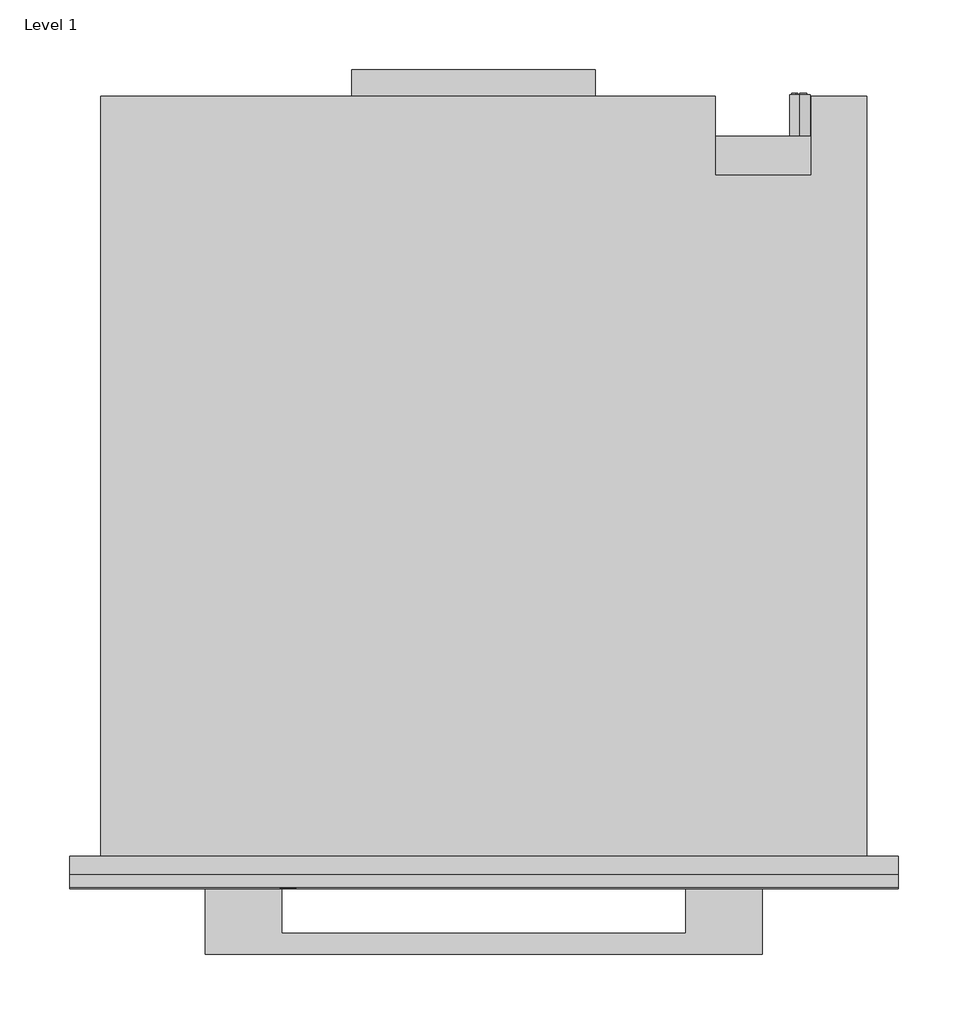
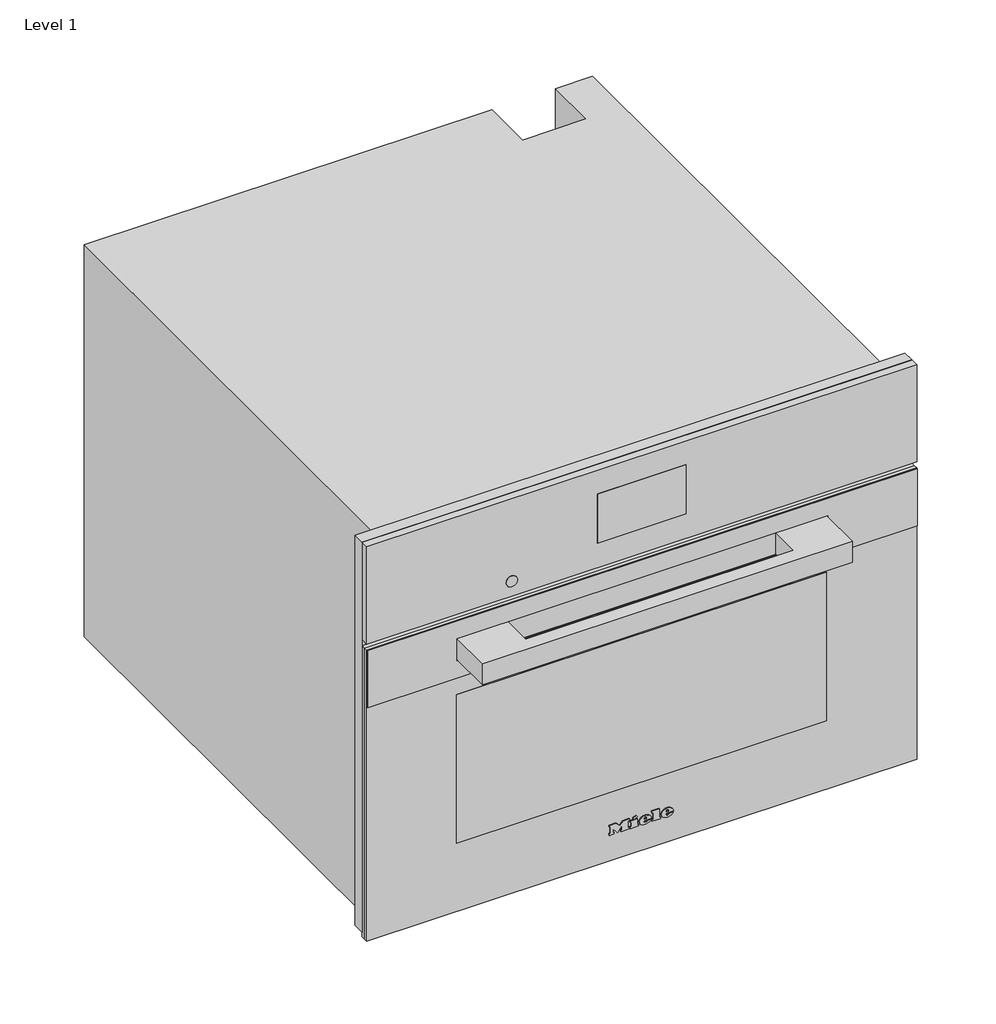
# One storey: 1 proxy.
"""IFC4 building model written with IfcOpenShell, lengths in millimetres."""

import ifcopenshell
import ifcopenshell.guid

model = None  # the IFC model being written
_history = None  # IfcOwnerHistory: only IFC2X3 demands one
_inside = {}  # id of a spatial element -> (the spatial element, [elements in it])
_under = {}  # id of a project, library or spatial element -> (it, [spatial elements below it])
_declared = {}  # id of a project -> (the project, [libraries it declares])
_typed = {}  # id of a type object -> (the type object, [elements of that type])
_made_of = {}  # id of a material, layer set ... -> (it, [elements and type objects made of it])


def new_model(schema):
    """Start an empty IFC model of exactly this schema.

    Asked for "IFC4X3", IfcOpenShell would pick the latest addendum, in which some entities
    have other attributes; the version numbers below select the first issue.
    IFC2X3 requires an IfcOwnerHistory on every rooted entity: one is made here for all.
    """
    global model, _history
    if schema == "IFC4X3":
        model = ifcopenshell.file(schema_version=(4, 3, 0, 0))
    else:
        model = ifcopenshell.file(schema=schema)
    _inside.clear()
    _under.clear()
    _declared.clear()
    _typed.clear()
    _made_of.clear()
    _history = None
    if model.schema == "IFC2X3":
        org = make("IfcOrganization", Name="unknown")
        user = make(
            "IfcPersonAndOrganization",
            ThePerson=make("IfcPerson", FamilyName="unknown"),
            TheOrganization=org,
        )
        app = make(
            "IfcApplication",
            ApplicationDeveloper=org,
            Version="unknown",
            ApplicationFullName="unknown",
            ApplicationIdentifier="unknown",
        )
        _history = make(
            "IfcOwnerHistory",
            OwningUser=user,
            OwningApplication=app,
            ChangeAction="ADDED",
            CreationDate=0,
        )
    return model


def make(cls, **values):
    """One entity of the class cls with the attributes given. An attribute that is None is left unset."""
    return model.create_entity(
        cls, **{name: value for name, value in values.items() if value is not None}
    )


def rooted(cls, **values):
    """An entity with a GlobalId (a new one), such as an element, a storey or a relation."""
    return make(cls, GlobalId=ifcopenshell.guid.new(), OwnerHistory=_history, **values)


def si_unit(unit_type, name, prefix=None):
    """IfcSIUnit, for example si_unit("LENGTHUNIT", "METRE", prefix="MILLI")."""
    return make("IfcSIUnit", UnitType=unit_type, Prefix=prefix, Name=name)


def assignment(units):
    """IfcUnitAssignment: the units of a project."""
    return None if units is None else make("IfcUnitAssignment", Units=units)


def point(xyz):
    """IfcCartesianPoint."""
    return None if xyz is None else make("IfcCartesianPoint", Coordinates=xyz)


def direction(xyz):
    """IfcDirection."""
    return None if xyz is None else make("IfcDirection", DirectionRatios=xyz)


def frame(location, z_axis=None, x_axis=None):
    """IfcAxis2Placement3D, a coordinate frame: its origin and axes. An axis left out is left unset."""
    return make(
        "IfcAxis2Placement3D",
        Location=point(location),
        Axis=direction(z_axis),
        RefDirection=direction(x_axis),
    )


def frame_2d(location, x_axis=None):
    """IfcAxis2Placement2D, a coordinate frame in the plane: its origin and x axis."""
    return make(
        "IfcAxis2Placement2D", Location=point(location), RefDirection=direction(x_axis)
    )


def origin():
    """The frame at (0, 0, 0) with its axes left unset."""
    return frame((0.0, 0.0, 0.0))


def place(relative_to, where):
    """IfcLocalPlacement: puts the frame where relative to a parent placement (None: the world)."""
    return make(
        "IfcLocalPlacement", PlacementRelTo=relative_to, RelativePlacement=where
    )


def context(
    kind, dimensions, precision=None, world=None, true_north=None, identifier=None
):
    """IfcGeometricRepresentationContext, for example the 3D "Model" context."""
    return make(
        "IfcGeometricRepresentationContext",
        ContextIdentifier=identifier,
        ContextType=kind,
        CoordinateSpaceDimension=dimensions,
        Precision=precision,
        WorldCoordinateSystem=world,
        TrueNorth=true_north,
    )


def project(units=None, contexts=None):
    """IfcProject with its units and contexts."""
    return rooted(
        "IfcProject",
        Name="project",
        RepresentationContexts=contexts,
        UnitsInContext=assignment(units),
    )


def spatial(cls, under=None, at=None, **own):
    """A site, building, storey or space (cls), placed at a placement, below another one or the project."""
    s = rooted(cls, ObjectPlacement=at, **own)
    if under is not None:
        _under.setdefault(under.id(), (under, []))[1].append(s)
    return s


def polyline(points):
    """IfcPolyline through the points."""
    return make("IfcPolyline", Points=[point(p) for p in points])


def circle_curve(where, radius):
    """IfcCircle in the frame where."""
    return make("IfcCircle", Position=where, Radius=radius)


def ellipse_curve(where, semi_axis1, semi_axis2):
    """IfcEllipse in the frame where."""
    return make(
        "IfcEllipse", Position=where, SemiAxis1=semi_axis1, SemiAxis2=semi_axis2
    )


def trimmed(basis, trim1, trim2, sense, master):
    """IfcTrimmedCurve: the piece of a basis curve between two trims."""
    return make(
        "IfcTrimmedCurve",
        BasisCurve=basis,
        Trim1=trim1,
        Trim2=trim2,
        SenseAgreement=sense,
        MasterRepresentation=master,
    )


def segment(curve, same_sense, transition):
    """IfcCompositeCurveSegment."""
    return make(
        "IfcCompositeCurveSegment",
        Transition=transition,
        SameSense=same_sense,
        ParentCurve=curve,
    )


def composite_curve(segments, self_intersect=None):
    """IfcCompositeCurve: segments joined end to end."""
    return make("IfcCompositeCurve", Segments=segments, SelfIntersect=self_intersect)


def outline(outer, holes=None, kind="AREA"):
    """IfcArbitraryClosedProfileDef: a profile drawn as a closed curve; with holes, ...WithVoids."""
    if holes is None:
        return make("IfcArbitraryClosedProfileDef", ProfileType=kind, OuterCurve=outer)
    return make(
        "IfcArbitraryProfileDefWithVoids",
        ProfileType=kind,
        OuterCurve=outer,
        InnerCurves=holes,
    )


def extrude(swept, where, along, depth):
    """IfcExtrudedAreaSolid: the profile swept, set in the frame where, extruded along a direction by depth."""
    return make(
        "IfcExtrudedAreaSolid",
        SweptArea=swept,
        Position=where,
        ExtrudedDirection=direction(along),
        Depth=depth,
    )


def faces_of(points, faces, orient=None, outer=None):
    """IfcFace entities. A face is a list of loops; a loop is a list of indices into points, from 0.

    orient and outer hold one flag for each loop. By default every Orientation is true, the
    first loop of a face is its IfcFaceOuterBound and the others are IfcFaceBound.
    """
    made = []
    for i, loops in enumerate(faces):
        bounds = []
        for j, loop in enumerate(loops):
            is_outer = j == 0 if outer is None else outer[i][j]
            bounds.append(
                make(
                    "IfcFaceOuterBound" if is_outer else "IfcFaceBound",
                    Bound=make("IfcPolyLoop", Polygon=[points[k] for k in loop]),
                    Orientation=True if orient is None else orient[i][j],
                )
            )
        made.append(make("IfcFace", Bounds=bounds))
    return made


def faceted_brep(points, faces, orient=None, outer=None, voids=None):
    """IfcFacetedBrep: a solid bounded by flat faces; with voids (closed shells), ...WithVoids."""
    shared = [point(p) for p in points]
    hull = make("IfcClosedShell", CfsFaces=faces_of(shared, faces, orient, outer))
    if voids is None:
        return make("IfcFacetedBrep", Outer=hull)
    return make(
        "IfcFacetedBrepWithVoids",
        Outer=hull,
        Voids=[
            make(cls, CfsFaces=faces_of(shared, fs, o, b)) for cls, fs, o, b in voids
        ],
    )


def shape(context_of_items, identifier, shape_type, items):
    """IfcShapeRepresentation: the items that make up one representation, for example the "Body"."""
    return make(
        "IfcShapeRepresentation",
        ContextOfItems=context_of_items,
        RepresentationIdentifier=identifier,
        RepresentationType=shape_type,
        Items=items,
    )


def source(mapping_origin, context_of_items, identifier, shape_type, items):
    """IfcRepresentationMap: a shape defined once, which mapped items show again and again."""
    return make(
        "IfcRepresentationMap",
        MappingOrigin=mapping_origin,
        MappedRepresentation=shape(context_of_items, identifier, shape_type, items),
    )


def transform(
    local_origin,
    x_axis=None,
    y_axis=None,
    z_axis=None,
    scale=None,
    scale2=None,
    scale3=None,
    uniform=True,
):
    """IfcCartesianTransformationOperator3D, or its non-uniform kind. x_axis, y_axis, z_axis: its Axis1, 2, 3."""
    if uniform:
        return make(
            "IfcCartesianTransformationOperator3D",
            Axis1=direction(x_axis),
            Axis2=direction(y_axis),
            LocalOrigin=point(local_origin),
            Scale=scale,
            Axis3=direction(z_axis),
        )
    return make(
        "IfcCartesianTransformationOperator3DnonUniform",
        Axis1=direction(x_axis),
        Axis2=direction(y_axis),
        LocalOrigin=point(local_origin),
        Scale=scale,
        Axis3=direction(z_axis),
        Scale2=scale2,
        Scale3=scale3,
    )


def mapped(mapping_source, mapping_target):
    """IfcMappedItem: shows the shape of a source again, moved by a transform."""
    return make(
        "IfcMappedItem", MappingSource=mapping_source, MappingTarget=mapping_target
    )


def made_of(thing, what):
    """Note that an element or type object is made of a material, layer set ...; save() writes the relation."""
    if what is not None:
        _made_of.setdefault(what.id(), (what, []))[1].append(thing)
    return thing


def element(
    cls,
    number,
    at=None,
    inside=None,
    cuts=None,
    type_object=None,
    material=None,
    context=None,
    identifier="Body",
    shape_type=None,
    held_by="IfcProductDefinitionShape",
    body=None,
    shapes=None,
    **own,
):
    """One element of the class cls, such as IfcWall. Its Tag is "e" and its number.

    at: its placement. inside: the storey or other place that contains it. cuts: it is an
    opening in that element (IfcRelVoidsElement). A single representation is given by context,
    identifier, shape_type and body (its items); several are given by shapes. held_by: the class
    of the entity that holds the representations. save() writes the other relations.
    """
    e = rooted(cls, Tag="e%d" % number, ObjectPlacement=at, **own)
    if body is not None:
        shapes = [shape(context, identifier, shape_type, body)]
    if shapes is not None:
        e.Representation = make(held_by, Representations=shapes)
    if inside is not None:
        _inside.setdefault(inside.id(), (inside, []))[1].append(e)
    if cuts is not None:
        rooted(
            "IfcRelVoidsElement", RelatingBuildingElement=cuts, RelatedOpeningElement=e
        )
    if type_object is not None:
        _typed.setdefault(type_object.id(), (type_object, []))[1].append(e)
    return made_of(e, material)


def aggregate(whole, parts):
    """IfcRelAggregates: a whole, such as a stair, and the parts it consists of."""
    return rooted("IfcRelAggregates", RelatingObject=whole, RelatedObjects=parts)


def save(model, path):
    """Write the relations noted so far, then the file.

    IfcRelAggregates (storeys below a building ...), IfcRelContainedInSpatialStructure (elements
    in a storey), IfcRelDefinesByType, IfcRelAssociatesMaterial and IfcRelDeclares: one each for
    every whole, place, type object, material and project.
    """
    for whole, parts in _under.values():
        aggregate(whole, parts)
    for where, things in _inside.values():
        rooted(
            "IfcRelContainedInSpatialStructure",
            RelatedElements=things,
            RelatingStructure=where,
        )
    for kind, things in _typed.values():
        rooted("IfcRelDefinesByType", RelatedObjects=things, RelatingType=kind)
    for what, things in _made_of.values():
        rooted("IfcRelAssociatesMaterial", RelatedObjects=things, RelatingMaterial=what)
    for by, libraries in _declared.values():
        rooted("IfcRelDeclares", RelatingContext=by, RelatedDefinitions=libraries)
    model.write(path)


def plane_surface(at):
    """IfcPlane: the flat surface through the origin of the frame at, square to its z axis."""
    return make("IfcPlane", Position=at)


def cylinder_surface(at, radius):
    """IfcCylindricalSurface: all points at the distance radius from the z axis of the frame at."""
    return make("IfcCylindricalSurface", Position=at, Radius=radius)


def revolved_surface(curve, axis_point, axis_direction):
    """IfcSurfaceOfRevolution: the curve turned about the line through axis_point along axis_direction."""
    return make(
        "IfcSurfaceOfRevolution",
        SweptCurve=make("IfcArbitraryOpenProfileDef", ProfileType="CURVE", Curve=curve),
        AxisPosition=make("IfcAxis1Placement", Location=point(axis_point), Axis=direction(axis_direction)),
    )


def extruded_surface(curve, direction_of_extrusion, depth):
    """IfcSurfaceOfLinearExtrusion: the curve pushed along a direction by depth."""
    return make(
        "IfcSurfaceOfLinearExtrusion",
        SweptCurve=make("IfcArbitraryOpenProfileDef", ProfileType="CURVE", Curve=curve),
        ExtrudedDirection=direction(direction_of_extrusion),
        Depth=depth,
    )


def advanced_brep(points, edges, surfaces, faces):
    """IfcAdvancedBrep: a solid bounded by faces that lie on surfaces and meet in shared edges.

    An edge is (start, end): straight between two places in points (the first is 0);
    or (start, end, curve); or (start, end, curve, False) where it runs against its curve.
    A face is (place in surfaces, loops), or (place, loops, False) where it looks against
    its surface's normal. A loop lists edges by number (the first is 1), with a minus sign
    where the edge is run from its end to its start. The first loop is the outer one.
    """
    corners = [point(p) for p in points]
    vertices = [make("IfcVertexPoint", VertexGeometry=c) for c in corners]
    made = []
    for start, end, *more in edges:
        made.append(
            make(
                "IfcEdgeCurve",
                EdgeStart=vertices[start],
                EdgeEnd=vertices[end],
                EdgeGeometry=more[0] if more else make("IfcPolyline", Points=[corners[start], corners[end]]),
                SameSense=more[1] if len(more) > 1 else True,
            )
        )
    hull = []
    for where, loops, *sense in faces:
        bounds = []
        for j, loop in enumerate(loops):
            ring = [make("IfcOrientedEdge", EdgeElement=made[abs(k) - 1], Orientation=k > 0) for k in loop]
            bounds.append(
                make(
                    "IfcFaceOuterBound" if j == 0 else "IfcFaceBound",
                    Bound=make("IfcEdgeLoop", EdgeList=ring),
                    Orientation=True,
                )
            )
        hull.append(make("IfcAdvancedFace", Bounds=bounds, FaceSurface=surfaces[where], SameSense=sense[0] if sense else True))
    return make("IfcAdvancedBrep", Outer=make("IfcClosedShell", CfsFaces=hull))


def specialty_equipment_7466eaa1(model_context):
    return source(origin(), model_context, "Body", "SolidModel", [
        extrude(outline(polyline([(455.0, 297.5), (455.0, -297.5), (9.0, -297.5), (9.0, 297.5), (455.0, 297.5)]), holes=[polyline([(344.0, -272.5), (344.0, 272.5), (27.0, 272.5), (27.0, -272.5), (344.0, -272.5)])]), frame((0.0, -13.0, 0.0), z_axis=(0.0, 1.0, 0.0), x_axis=(0.0, 0.0, 1.0)), (0.0, 0.0, 1.0), 13.0),
        extrude(outline(polyline([(-95.0, 565.0), (80.0, 565.0), (80.0, 546.0), (-95.0, 546.0), (-95.0, 565.0)])), frame((0.0, 0.0, 260.0), z_axis=(0.0, 0.0, 1.0), x_axis=(1.0, 0.0, 0.0)), (0.0, 0.0, 1.0), 1.0),
        advanced_brep(
        [(227.0, 547.0, 255.5), (227.0, 547.0, 240.5), (221.4098301, 547.0, 243.0), (225.5, 547.0, 243.0), (225.5, 547.0, 253.0), (224.4955303, 547.0, 253.0), (224.4955303, 547.0, 244.0), (221.0315043, 547.0, 244.0), (221.0315043, 547.0, 243.4582978), (232.0, 547.0, 243.0), (232.0, 547.0, 253.0), (227.0, 547.0, 253.0), (227.0, 547.0, 252.0), (231.0, 547.0, 252.0), (231.0, 547.0, 248.5), (228.0, 547.0, 248.5), (228.0, 547.0, 247.5), (231.0, 547.0, 247.5), (231.0, 547.0, 244.0), (227.0, 547.0, 244.0), (227.0, 547.0, 243.0), (227.0, 517.0, 240.5), (227.0, 517.0, 255.5), (232.0, 548.0, 253.0), (232.0, 548.0, 243.0), (227.0, 548.0, 243.0), (227.0, 548.0, 244.0), (231.0, 548.0, 244.0), (231.0, 548.0, 247.5), (228.0, 548.0, 247.5), (228.0, 548.0, 248.5), (231.0, 548.0, 248.5), (231.0, 548.0, 252.0), (227.0, 548.0, 252.0), (227.0, 548.0, 253.0), (225.5, 548.0, 243.0), (221.0315043, 548.0, 243.0), (221.0315043, 548.0, 244.0), (224.4955303, 548.0, 244.0), (224.4955303, 548.0, 253.0), (225.5, 548.0, 253.0), (221.0315043, 547.0, 243.0)],
        [
            (0, 1, circle_curve(frame((227.0, 547.0, 248.0), z_axis=(0.0, 1.0, 0.0), x_axis=(0.0, 0.0, 1.0)), 7.5)),
            (1, 2, circle_curve(frame((227.0, 547.0, 248.0), z_axis=(0.0, 1.0, 0.0), x_axis=(0.0, 0.0, 1.0)), 7.5)),
            (2, 3),
            (3, 4),
            (4, 5),
            (5, 6),
            (6, 7),
            (7, 8),
            (8, 0, circle_curve(frame((227.0, 547.0, 248.0), z_axis=(0.0, 1.0, 0.0), x_axis=(0.0, 0.0, 1.0)), 7.5)),
            (9, 10),
            (10, 11),
            (11, 12),
            (12, 13),
            (13, 14),
            (14, 15),
            (15, 16),
            (16, 17),
            (17, 18),
            (18, 19),
            (19, 20),
            (20, 9),
            (21, 22, circle_curve(frame((227.0, 517.0, 248.0), z_axis=(0.0, -1.0, 0.0), x_axis=(0.0, 0.0, 1.0)), 7.5)),
            (22, 21, circle_curve(frame((227.0, 517.0, 248.0), z_axis=(0.0, -1.0, 0.0), x_axis=(0.0, 0.0, 1.0)), 7.5)),
            (0, 22),
            (21, 1),
            (8, 2, circle_curve(frame((227.0, 547.0, 248.0), z_axis=(0.0, -1.0, 0.0), x_axis=(0.0, 0.0, 1.0)), 7.5)),
            (23, 24),
            (24, 25),
            (25, 26),
            (26, 27),
            (27, 28),
            (28, 29),
            (29, 30),
            (30, 31),
            (31, 32),
            (32, 33),
            (33, 34),
            (34, 23),
            (35, 36),
            (36, 37),
            (37, 38),
            (38, 39),
            (39, 40),
            (40, 35),
            (8, 41),
            (41, 2),
            (23, 10),
            (9, 24),
            (20, 25),
            (19, 26),
            (18, 27),
            (17, 28),
            (16, 29),
            (15, 30),
            (14, 31),
            (13, 32),
            (12, 33),
            (11, 34),
            (35, 3),
            (41, 36),
            (7, 37),
            (6, 38),
            (5, 39),
            (4, 40),
        ],
        [
            plane_surface(frame((227.0, 547.0, 255.5), z_axis=(0.0, 1.0, 0.0), x_axis=(1.0, 0.0, 0.0))),
            plane_surface(frame((227.0, 517.0, 255.5), z_axis=(0.0, -1.0, 0.0), x_axis=(-1.0, 0.0, 0.0))),
            cylinder_surface(frame((227.0, 547.0, 248.0), z_axis=(0.0, -1.0, 0.0), x_axis=(0.0, 0.0, 1.0)), 7.5),
            plane_surface(frame((232.0, 548.0, 253.0), z_axis=(0.0, 1.0, 0.0), x_axis=(0.0, 0.0, -1.0))),
            plane_surface(frame((232.0, 547.0, 253.0), z_axis=(0.0, -1.0, 0.0), x_axis=(0.0, 0.0, 1.0))),
            plane_surface(frame((232.0, 548.0, 253.0), z_axis=(1.0, 0.0, 0.0), x_axis=(0.0, -1.0, 0.0))),
            plane_surface(frame((232.0, 548.0, 243.0), z_axis=(0.0, 0.0, -1.0), x_axis=(0.0, -1.0, 0.0))),
            plane_surface(frame((227.0, 548.0, 243.0), z_axis=(-1.0, 0.0, 0.0), x_axis=(0.0, -1.0, 0.0))),
            plane_surface(frame((227.0, 548.0, 244.0), z_axis=(0.0, 0.0, 1.0), x_axis=(0.0, -1.0, 0.0))),
            plane_surface(frame((231.0, 548.0, 244.0), z_axis=(-1.0, 0.0, 0.0), x_axis=(0.0, -1.0, 0.0))),
            plane_surface(frame((231.0, 548.0, 247.5), z_axis=(0.0, 0.0, -1.0), x_axis=(0.0, -1.0, 0.0))),
            plane_surface(frame((228.0, 548.0, 247.5), z_axis=(-1.0, 0.0, 0.0), x_axis=(0.0, -1.0, 0.0))),
            plane_surface(frame((228.0, 548.0, 248.5), z_axis=(0.0, 0.0, 1.0), x_axis=(0.0, -1.0, 0.0))),
            plane_surface(frame((231.0, 548.0, 248.5), z_axis=(-1.0, 0.0, 0.0), x_axis=(0.0, -1.0, 0.0))),
            plane_surface(frame((231.0, 548.0, 252.0), z_axis=(0.0, 0.0, -1.0), x_axis=(0.0, -1.0, 0.0))),
            plane_surface(frame((227.0, 548.0, 252.0), z_axis=(-1.0, 0.0, 0.0), x_axis=(0.0, -1.0, 0.0))),
            plane_surface(frame((227.0, 548.0, 253.0), z_axis=(0.0, 0.0, 1.0), x_axis=(0.0, -1.0, 0.0))),
            plane_surface(frame((225.5, 548.0, 243.0), z_axis=(0.0, 0.0, -1.0), x_axis=(0.0, -1.0, 0.0))),
            plane_surface(frame((221.0315043, 548.0, 243.0), z_axis=(-1.0, 0.0, 0.0), x_axis=(0.0, -1.0, 0.0))),
            plane_surface(frame((221.0315043, 548.0, 244.0), z_axis=(0.0, 0.0, 1.0), x_axis=(0.0, -1.0, 0.0))),
            plane_surface(frame((224.4955303, 548.0, 244.0), z_axis=(-1.0, 0.0, 0.0), x_axis=(0.0, -1.0, 0.0))),
            plane_surface(frame((224.4955303, 548.0, 253.0), z_axis=(0.0, 0.0, 1.0), x_axis=(0.0, -1.0, 0.0))),
            plane_surface(frame((225.5, 548.0, 253.0), z_axis=(1.0, 0.0, 0.0), x_axis=(0.0, -1.0, 0.0))),
        ],
        [
            (0, [[1, 2, 3, 4, 5, 6, 7, 8, 9], [10, 11, 12, 13, 14, 15, 16, 17, 18, 19, 20, 21]]),
            (1, [[22, 23]]),
            (2, [[-1, 24, -22, 25]]),
            (2, [[-23, -24, -9, 26, -2, -25]]),
            (3, [[27, 28, 29, 30, 31, 32, 33, 34, 35, 36, 37, 38]]),
            (3, [[39, 40, 41, 42, 43, 44]]),
            (4, [[45, 46, -26]]),
            (5, [[-27, 47, -10, 48]]),
            (6, [[-28, -48, -21, 49]]),
            (7, [[-29, -49, -20, 50]]),
            (8, [[-30, -50, -19, 51]]),
            (9, [[-31, -51, -18, 52]]),
            (10, [[-32, -52, -17, 53]]),
            (11, [[-33, -53, -16, 54]]),
            (12, [[-34, -54, -15, 55]]),
            (13, [[-35, -55, -14, 56]]),
            (14, [[-36, -56, -13, 57]]),
            (15, [[-37, -57, -12, 58]]),
            (16, [[-38, -58, -11, -47]]),
            (17, [[-39, 59, -3, -46, 60]]),
            (18, [[-40, -60, -45, -8, 61]]),
            (19, [[-41, -61, -7, 62]]),
            (20, [[-42, -62, -6, 63]]),
            (21, [[-43, -63, -5, 64]]),
            (22, [[-44, -64, -4, -59]]),
        ],
    ),
        faceted_brep([(-275.0, 546.0, 0.0), (-275.0, 546.0, 448.0), (166.0, 546.0, 448.0), (166.0, 546.0, 0.0), (235.0, 546.0, 448.0), (275.0, 546.0, 448.0), (275.0, 546.0, 338.0), (235.0, 546.0, 338.0), (275.0, 0.0, 448.0), (-275.0, 0.0, 448.0), (-275.0, 0.0, 0.0), (275.0, 0.0, 0.0), (-272.5, 0.0, 344.0), (272.5, 0.0, 344.0), (272.5, 0.0, 27.0), (-272.5, 0.0, 27.0), (235.0, 489.0, 448.0), (166.0, 489.0, 448.0), (166.0, 517.0, 0.0), (275.0, 517.0, 0.0), (275.0, 517.0, 338.0), (272.5, 17.0, 344.0), (-272.5, 17.0, 344.0), (-272.5, 17.0, 27.0), (272.5, 17.0, 27.0), (231.0, 17.0, 307.0), (231.0, 17.0, 65.0), (-231.0, 17.0, 65.0), (-231.0, 17.0, 307.0), (231.0, 411.0, 307.0), (-231.0, 411.0, 307.0), (-231.0, 411.0, 65.0), (231.0, 411.0, 65.0), (235.0, 489.0, 337.0), (166.0, 489.0, 337.0), (166.0, 517.0, 337.0), (235.0, 517.0, 337.0), (235.0, 517.0, 338.0)], [[[0, 1, 2, 3]], [[4, 5, 6, 7]], [[8, 9, 10, 11], [12, 13, 14, 15]], [[9, 8, 5, 4, 16, 17, 2, 1]], [[1, 0, 10, 9]], [[11, 10, 0, 3, 18, 19]], [[8, 11, 19, 20, 6, 5]], [[21, 22, 23, 24], [25, 26, 27, 28]], [[22, 21, 13, 12]], [[23, 22, 12, 15]], [[24, 23, 15, 14]], [[21, 24, 14, 13]], [[29, 30, 31, 32]], [[29, 32, 26, 25]], [[32, 31, 27, 26]], [[31, 30, 28, 27]], [[30, 29, 25, 28]], [[16, 33, 34, 17]], [[17, 34, 35, 18, 3, 2]], [[34, 33, 36, 35]], [[33, 16, 4, 7, 37, 36]], [[37, 20, 19, 18, 35, 36]], [[20, 37, 7, 6]]]),
        advanced_brep(
        [(26.2998, -23.0, 36.7018), (26.2998, -23.0, 37.8532), (33.9264, -23.0, 37.8532), (20.6568, -23.0, 37.8532), (23.7918, -23.0, 34.0), (33.7326, -23.0, 36.7018), (30.2898, -23.0, 36.7018), (27.5766, -23.0, 35.425), (26.2998, -23.0, 39.3124), (26.2998, -23.0, 40.555), (28.2492, -23.0, 40.555), (28.2492, -23.0, 39.3124), (26.2998, -22.0, 36.7018), (27.5766, -22.0, 35.425), (30.2898, -22.0, 36.7018), (33.7326, -22.0, 36.7018), (23.7918, -22.0, 34.0), (20.6568, -22.0, 37.8532), (33.9264, -22.0, 37.8532), (26.2998, -22.0, 37.8532), (26.2998, -22.0, 39.3124), (28.2492, -22.0, 39.3124), (28.2492, -22.0, 40.555), (26.2998, -22.0, 40.555)],
        [
            (0, 1),
            (1, 2),
            (2, 3, ellipse_curve(frame((27.2916, -23.0, 37.8532), z_axis=(0.0, -1.0, 0.0), x_axis=(-1.0, 0.0, 0.0)), 6.6348, 5.4834)),
            (3, 4, circle_curve(frame((25.0686622, -23.0, 38.2408), z_axis=(0.0, -1.0, 0.0), x_axis=(0.0, 0.0, -1.0)), 4.4288556)),
            (4, 5, circle_curve(frame((27.1587808, -23.0, 41.2504), z_axis=(0.0, -1.0, 0.0), x_axis=(0.0, 0.0, -1.0)), 7.9940516)),
            (5, 6),
            (6, 7, circle_curve(frame((28.1338588, -23.0, 37.762), z_axis=(0.0, 1.0, 0.0), x_axis=(0.0, 0.0, -1.0)), 2.4025208)),
            (7, 0, circle_curve(frame((27.5766, -23.0, 36.7018), z_axis=(0.0, 1.0, 0.0), x_axis=(0.0, 0.0, -1.0)), 1.2768)),
            (8, 9),
            (9, 10, circle_curve(frame((27.2745, -23.0, 40.555), z_axis=(0.0, 1.0, 0.0), x_axis=(0.0, 0.0, -1.0)), 0.9747)),
            (10, 11),
            (11, 8),
            (12, 13, circle_curve(frame((27.5766, -22.0, 36.7018), z_axis=(0.0, -1.0, 0.0), x_axis=(0.0, 0.0, -1.0)), 1.2768)),
            (13, 14, circle_curve(frame((28.1338588, -22.0, 37.762), z_axis=(0.0, -1.0, 0.0), x_axis=(0.0, 0.0, -1.0)), 2.4025208)),
            (14, 15),
            (15, 16, circle_curve(frame((27.1587808, -22.0, 41.2504), z_axis=(0.0, 1.0, 0.0), x_axis=(0.0, 0.0, -1.0)), 7.9940516)),
            (16, 17, circle_curve(frame((25.0686622, -22.0, 38.2408), z_axis=(0.0, 1.0, 0.0), x_axis=(0.0, 0.0, -1.0)), 4.4288556)),
            (17, 18, ellipse_curve(frame((27.2916, -22.0, 37.8532), z_axis=(0.0, 1.0, 0.0), x_axis=(-1.0, 0.0, 0.0)), 6.6348, 5.4834)),
            (18, 19),
            (19, 12),
            (20, 21),
            (21, 22),
            (22, 23, circle_curve(frame((27.2745, -22.0, 40.555), z_axis=(0.0, -1.0, 0.0), x_axis=(0.0, 0.0, -1.0)), 0.9747)),
            (23, 20),
            (0, 12),
            (19, 1),
            (18, 2),
            (5, 15),
            (14, 6),
            (17, 3),
            (13, 7),
            (16, 4),
            (8, 20),
            (23, 9),
            (22, 10),
            (21, 11),
        ],
        [
            plane_surface(frame((26.2998, -23.0, 37.8532), z_axis=(0.0, -1.0, 0.0), x_axis=(0.0, 0.0, 1.0))),
            plane_surface(frame((26.2998, -22.0, 37.8532), z_axis=(0.0, 1.0, 0.0), x_axis=(0.0, 0.0, -1.0))),
            plane_surface(frame((26.2998, -23.0, 36.7018), z_axis=(1.0, 0.0, 0.0), x_axis=(0.0, 1.0, 0.0))),
            plane_surface(frame((26.2998, -23.0, 37.8532), z_axis=(0.0, 0.0, -1.0), x_axis=(0.0, 1.0, 0.0))),
            plane_surface(frame((33.7326, -23.0, 36.7018), z_axis=(0.0, 0.0, 1.0), x_axis=(0.0, 1.0, 0.0))),
            extruded_surface(trimmed(ellipse_curve(frame((27.2916, -21.0, 37.8532), z_axis=(0.0, -1.0, 0.0), x_axis=(-1.0, 0.0, 0.0)), 6.6348, 5.4834), [point((33.9264, -21.0, 37.8532))], [point((20.6568, -21.0, 37.8532))], True, "CARTESIAN"), (0.0, -1.0, 0.0), 1.0),
            revolved_surface(polyline([(28.1338588, -22.0, 35.3594792), (28.1338588, -23.0, 35.3594792)]), (28.1338588, -22.0, 37.762), (0.0, 1.0, 0.0)),
            revolved_surface(polyline([(27.5766, -22.0, 35.425), (27.5766, -23.0, 35.425)]), (27.5766, -22.0, 36.7018), (0.0, 1.0, 0.0)),
            cylinder_surface(frame((25.0686622, -22.0, 38.2408), z_axis=(0.0, -1.0, 0.0), x_axis=(0.0, 0.0, -1.0)), 4.4288556),
            cylinder_surface(frame((27.1587808, -22.0, 41.2504), z_axis=(0.0, -1.0, 0.0), x_axis=(0.0, 0.0, -1.0)), 7.9940516),
            plane_surface(frame((26.2998, -23.0, 39.3124), z_axis=(1.0, 0.0, 0.0), x_axis=(0.0, 1.0, 0.0))),
            revolved_surface(polyline([(27.2745, -22.0, 39.5803), (27.2745, -23.0, 39.5803)]), (27.2745, -22.0, 40.555), (0.0, 1.0, 0.0)),
            plane_surface(frame((28.2492, -23.0, 40.555), z_axis=(-1.0, 0.0, 0.0), x_axis=(0.0, 1.0, 0.0))),
            plane_surface(frame((28.2492, -23.0, 39.3124), z_axis=(0.0, 0.0, 1.0), x_axis=(0.0, 1.0, 0.0))),
        ],
        [
            (0, [[1, 2, 3, 4, 5, 6, 7, 8], [9, 10, 11, 12]]),
            (1, [[13, 14, 15, 16, 17, 18, 19, 20], [21, 22, 23, 24]]),
            (2, [[-1, 25, -20, 26]]),
            (3, [[-2, -26, -19, 27]]),
            (4, [[-6, 28, -15, 29]]),
            (5, [[-3, -27, -18, 30]]),
            (6, [[-7, -29, -14, 31]]),
            (7, [[-8, -31, -13, -25]]),
            (8, [[-4, -30, -17, 32]]),
            (9, [[-5, -32, -16, -28]]),
            (10, [[-9, 33, -24, 34]]),
            (11, [[-10, -34, -23, 35]]),
            (12, [[-11, -35, -22, 36]]),
            (13, [[-12, -36, -21, -33]]),
        ],
    ),
        advanced_brep(
        [(2.508, -23.0, 36.7018), (2.508, -23.0, 37.8532), (10.1346, -23.0, 37.8532), (-3.135, -23.0, 37.8532), (0.0, -23.0, 34.0), (9.9408, -23.0, 36.7018), (6.498, -23.0, 36.7018), (3.7848, -23.0, 35.425), (2.508, -23.0, 39.3124), (2.508, -23.0, 40.555), (4.4574, -23.0, 40.555), (4.4574, -23.0, 39.3124), (2.508, -22.0, 36.7018), (3.7848, -22.0, 35.425), (6.498, -22.0, 36.7018), (9.9408, -22.0, 36.7018), (0.0, -22.0, 34.0), (-3.135, -22.0, 37.8532), (10.1346, -22.0, 37.8532), (2.508, -22.0, 37.8532), (2.508, -22.0, 39.3124), (4.4574, -22.0, 39.3124), (4.4574, -22.0, 40.555), (2.508, -22.0, 40.555)],
        [
            (0, 1),
            (1, 2),
            (2, 3, ellipse_curve(frame((3.4998, -23.0, 37.8532), z_axis=(0.0, -1.0, 0.0), x_axis=(-1.0, 0.0, 0.0)), 6.6348, 5.4834)),
            (3, 4, circle_curve(frame((1.2768622, -23.0, 38.2408), z_axis=(0.0, -1.0, 0.0), x_axis=(0.0, 0.0, -1.0)), 4.4288556)),
            (4, 5, circle_curve(frame((3.3669808, -23.0, 41.2504), z_axis=(0.0, -1.0, 0.0), x_axis=(0.0, 0.0, -1.0)), 7.9940516)),
            (5, 6),
            (6, 7, circle_curve(frame((4.3420588, -23.0, 37.762), z_axis=(0.0, 1.0, 0.0), x_axis=(0.0, 0.0, -1.0)), 2.4025208)),
            (7, 0, circle_curve(frame((3.7848, -23.0, 36.7018), z_axis=(0.0, 1.0, 0.0), x_axis=(0.0, 0.0, -1.0)), 1.2768)),
            (8, 9),
            (9, 10, circle_curve(frame((3.4827, -23.0, 40.555), z_axis=(0.0, 1.0, 0.0), x_axis=(0.0, 0.0, -1.0)), 0.9747)),
            (10, 11),
            (11, 8),
            (12, 13, circle_curve(frame((3.7848, -22.0, 36.7018), z_axis=(0.0, -1.0, 0.0), x_axis=(0.0, 0.0, -1.0)), 1.2768)),
            (13, 14, circle_curve(frame((4.3420588, -22.0, 37.762), z_axis=(0.0, -1.0, 0.0), x_axis=(0.0, 0.0, -1.0)), 2.4025208)),
            (14, 15),
            (15, 16, circle_curve(frame((3.3669808, -22.0, 41.2504), z_axis=(0.0, 1.0, 0.0), x_axis=(0.0, 0.0, -1.0)), 7.9940516)),
            (16, 17, circle_curve(frame((1.2768622, -22.0, 38.2408), z_axis=(0.0, 1.0, 0.0), x_axis=(0.0, 0.0, -1.0)), 4.4288556)),
            (17, 18, ellipse_curve(frame((3.4998, -22.0, 37.8532), z_axis=(0.0, 1.0, 0.0), x_axis=(-1.0, 0.0, 0.0)), 6.6348, 5.4834)),
            (18, 19),
            (19, 12),
            (20, 21),
            (21, 22),
            (22, 23, circle_curve(frame((3.4827, -22.0, 40.555), z_axis=(0.0, -1.0, 0.0), x_axis=(0.0, 0.0, -1.0)), 0.9747)),
            (23, 20),
            (0, 12),
            (19, 1),
            (18, 2),
            (5, 15),
            (14, 6),
            (17, 3),
            (13, 7),
            (16, 4),
            (8, 20),
            (23, 9),
            (22, 10),
            (21, 11),
        ],
        [
            plane_surface(frame((2.508, -23.0, 37.8532), z_axis=(0.0, -1.0, 0.0), x_axis=(0.0, 0.0, 1.0))),
            plane_surface(frame((2.508, -22.0, 37.8532), z_axis=(0.0, 1.0, 0.0), x_axis=(0.0, 0.0, -1.0))),
            plane_surface(frame((2.508, -23.0, 36.7018), z_axis=(1.0, 0.0, 0.0), x_axis=(0.0, 1.0, 0.0))),
            plane_surface(frame((2.508, -23.0, 37.8532), z_axis=(0.0, 0.0, -1.0), x_axis=(0.0, 1.0, 0.0))),
            plane_surface(frame((9.9408, -23.0, 36.7018), z_axis=(0.0, 0.0, 1.0), x_axis=(0.0, 1.0, 0.0))),
            extruded_surface(trimmed(ellipse_curve(frame((3.4998, -21.0, 37.8532), z_axis=(0.0, -1.0, 0.0), x_axis=(-1.0, 0.0, 0.0)), 6.6348, 5.4834), [point((10.1346, -21.0, 37.8532))], [point((-3.135, -21.0, 37.8532))], True, "CARTESIAN"), (0.0, -1.0, 0.0), 1.0),
            revolved_surface(polyline([(4.3420588, -22.0, 35.3594792), (4.3420588, -23.0, 35.3594792)]), (4.3420588, -22.0, 37.762), (0.0, 1.0, 0.0)),
            revolved_surface(polyline([(3.7848, -22.0, 35.425), (3.7848, -23.0, 35.425)]), (3.7848, -22.0, 36.7018), (0.0, 1.0, 0.0)),
            cylinder_surface(frame((1.2768622, -22.0, 38.2408), z_axis=(0.0, -1.0, 0.0), x_axis=(0.0, 0.0, -1.0)), 4.4288556),
            cylinder_surface(frame((3.3669808, -22.0, 41.2504), z_axis=(0.0, -1.0, 0.0), x_axis=(0.0, 0.0, -1.0)), 7.9940516),
            plane_surface(frame((2.508, -23.0, 39.3124), z_axis=(1.0, 0.0, 0.0), x_axis=(0.0, 1.0, 0.0))),
            revolved_surface(polyline([(3.4827, -22.0, 39.5803), (3.4827, -23.0, 39.5803)]), (3.4827, -22.0, 40.555), (0.0, 1.0, 0.0)),
            plane_surface(frame((4.4574, -23.0, 40.555), z_axis=(-1.0, 0.0, 0.0), x_axis=(0.0, 1.0, 0.0))),
            plane_surface(frame((4.4574, -23.0, 39.3124), z_axis=(0.0, 0.0, 1.0), x_axis=(0.0, 1.0, 0.0))),
        ],
        [
            (0, [[1, 2, 3, 4, 5, 6, 7, 8], [9, 10, 11, 12]]),
            (1, [[13, 14, 15, 16, 17, 18, 19, 20], [21, 22, 23, 24]]),
            (2, [[-1, 25, -20, 26]]),
            (3, [[-2, -26, -19, 27]]),
            (4, [[-6, 28, -15, 29]]),
            (5, [[-3, -27, -18, 30]]),
            (6, [[-7, -29, -14, 31]]),
            (7, [[-8, -31, -13, -25]]),
            (8, [[-4, -30, -17, 32]]),
            (9, [[-5, -32, -16, -28]]),
            (10, [[-9, 33, -24, 34]]),
            (11, [[-10, -34, -23, 35]]),
            (12, [[-11, -35, -22, 36]]),
            (13, [[-12, -36, -21, -33]]),
        ],
    ),
        extrude(outline(polyline([(44.7274, -9.9522), (42.8806, -9.0858), (44.6818, -5.2212), (46.5286, -6.0762), (44.7274, -9.9522)])), frame((0.0, -23.0, 0.0), z_axis=(0.0, 1.0, 0.0), x_axis=(0.0, 0.0, 1.0)), (0.0, 0.0, 1.0), 1.0),
        extrude(outline(polyline([(42.6298, -12.768), (40.5892, -12.768), (40.5892, -11.4114), (35.9152, -11.4114), (35.9152, -12.768), (34.0, -12.768), (34.0, -3.7734), (35.9152, -3.7734), (35.9152, -5.0958), (42.6298, -5.0958), (42.6298, -12.768)])), frame((0.0, -23.0, 0.0), z_axis=(0.0, 1.0, 0.0), x_axis=(0.0, 0.0, 1.0)), (0.0, 0.0, 1.0), 1.0),
        extrude(outline(polyline([(43.5418, 10.773), (43.5418, 12.141), (35.9152, 12.141), (35.9152, 10.773), (34.0, 10.773), (34.0, 20.0184), (35.9152, 20.0184), (35.9152, 18.6162), (45.4, 18.6162), (45.4, 10.773), (43.5418, 10.773)])), frame((0.0, -23.0, 0.0), z_axis=(0.0, 1.0, 0.0), x_axis=(0.0, 0.0, 1.0)), (0.0, 0.0, 1.0), 1.0),
        extrude(outline(polyline([(43.5418, -35.4882), (43.5418, -34.1088), (35.9152, -34.1088), (35.9152, -35.4882), (34.0, -35.4882), (34.0, -30.4722), (35.9152, -30.4722), (35.9152, -31.8402), (40.7429247, -31.8402), (34.0, -26.7444), (40.9402223, -21.6258), (35.9152, -21.6258), (35.9152, -23.028), (34.0, -23.028), (34.0, -13.9308), (35.9152, -13.9308), (35.9152, -15.3786), (43.5418, -15.3786), (43.5418, -13.9308), (45.4, -13.9308), (45.4, -20.8734), (41.125, -24.2022), (45.4, -27.5424), (45.4, -35.4882), (43.5418, -35.4882)])), frame((0.0, -23.0, 0.0), z_axis=(0.0, 1.0, 0.0), x_axis=(0.0, 0.0, 1.0)), (0.0, 0.0, 1.0), 1.0),
        extrude(outline(composite_curve([segment(trimmed(circle_curve(frame_2d((361.0, -140.5745637)), 6.0), [point((361.0, -146.5745637))], [point((361.0, -134.5745637))], False, "CARTESIAN"), True, "CONTINUOUS"), segment(trimmed(circle_curve(frame_2d((361.0, -140.5745637)), 6.0), [point((361.0, -134.5745637))], [point((361.0, -146.5745637))], False, "CARTESIAN"), True, "CONTINUOUS")], self_intersect=False)), frame((0.0, -22.5, 0.0), z_axis=(0.0, 1.0, 0.0), x_axis=(0.0, 0.0, 1.0)), (0.0, 0.0, 1.0), 1.0),
        extrude(outline(polyline([(-48.0, -21.0), (48.0, -21.0), (48.0, -22.0), (-48.0, -22.0), (-48.0, -21.0)])), frame((0.0, 0.0, 372.0), z_axis=(0.0, 0.0, 1.0), x_axis=(1.0, 0.0, 0.0)), (0.0, 0.0, 1.0), 56.0),
        faceted_brep([(297.5, -22.0, 455.0), (-297.5, -22.0, 455.0), (-297.5, -22.0, 344.0), (297.5, -22.0, 344.0), (48.0, -22.0, 428.0), (48.0, -22.0, 372.0), (-48.0, -22.0, 372.0), (-48.0, -22.0, 428.0), (297.5, -13.0, 455.0), (297.5, -13.0, 344.0), (-297.5, -13.0, 344.0), (-297.5, -13.0, 455.0), (48.0, -21.0, 428.0), (-48.0, -21.0, 428.0), (-48.0, -21.0, 372.0), (48.0, -21.0, 372.0)], [[[0, 1, 2, 3], [4, 5, 6, 7]], [[8, 9, 10, 11]], [[1, 0, 8, 11]], [[2, 1, 11, 10]], [[3, 2, 10, 9]], [[0, 3, 9, 8]], [[12, 13, 14, 15]], [[12, 15, 5, 4]], [[15, 14, 6, 5]], [[14, 13, 7, 6]], [[13, 12, 4, 7]]]),
        extrude(outline(polyline([(200.0, -22.0), (-200.0, -22.0), (-200.0, -18.0), (200.0, -18.0), (200.0, -22.0)])), frame((0.0, 0.0, 82.0), z_axis=(0.0, 0.0, 1.0), x_axis=(1.0, 0.0, 0.0)), (0.0, 0.0, 1.0), 170.0),
        extrude(outline(polyline([(337.0, 297.5), (337.0, -297.5), (4.0, -297.5), (4.0, 297.5), (337.0, 297.5)]), holes=[polyline([(252.0, -200.0), (252.0, 200.0), (82.0, 200.0), (82.0, -200.0), (252.0, -200.0)])]), frame((0.0, -22.0, 0.0), z_axis=(0.0, 1.0, 0.0), x_axis=(0.0, 0.0, 1.0)), (0.0, 0.0, 1.0), 4.0),
        extrude(outline(polyline([(337.0, 297.5), (337.0, -297.5), (272.0, -297.5), (272.0, 297.5), (337.0, 297.5)]), holes=[polyline([(317.0, -200.5), (317.0, 200.5), (292.0, 200.5), (292.0, -200.5), (317.0, -200.5)])]), frame((0.0, -23.3, 0.0), z_axis=(0.0, 1.0, 0.0), x_axis=(0.0, 0.0, 1.0)), (0.0, 0.0, 1.0), 1.3),
        extrude(outline(polyline([(-200.0, -70.3), (-200.0, -22.0), (-145.0, -22.0), (-145.0, -55.3), (145.0, -55.3), (145.0, -22.0), (200.0, -22.0), (200.0, -70.3), (-200.0, -70.3)])), frame((0.0, 0.0, 292.5), z_axis=(0.0, 0.0, 1.0), x_axis=(1.0, 0.0, 0.0)), (0.0, 0.0, 1.0), 24.0),
        extrude(outline(polyline([(297.5, -18.0), (-297.5, -18.0), (-297.5, -13.0), (297.5, -13.0), (297.5, -18.0)])), frame((0.0, 0.0, 4.0), z_axis=(0.0, 0.0, 1.0), x_axis=(1.0, 0.0, 0.0)), (0.0, 0.0, 1.0), 333.0),
    ])


model = new_model("IFC4")

# Units and contexts
model_context = context("Model", 3, world=origin())
ifc_project = project(units=[si_unit("LENGTHUNIT", "METRE", prefix="MILLI")], contexts=[model_context])

# Site, building, storey
site = spatial("IfcSite", under=ifc_project)
building = spatial("IfcBuilding", under=site)
storey = spatial("IfcBuildingStorey", under=building, Name="Level 1", Elevation=0.0)

# Proxy
placement = place(None, origin())
specialty_equipment_shape = specialty_equipment_7466eaa1(model_context)
element("IfcBuildingElementProxy", 1, Name="11876660_USA_DGC7640_EDST-CLST : 23764042_USA_11876660_DGC7640_EDST-CLST", ObjectType="11876660_USA_DGC7640_EDST-CLST : 23764042_USA_11876660_DGC7640_EDST-CLST", at=placement, inside=storey, context=model_context, shape_type="MappedRepresentation", body=[
    mapped(specialty_equipment_shape, transform((0.0, 0.0, 0.0), x_axis=(1.0, 0.0, 0.0), y_axis=(0.0, 1.0, 0.0), z_axis=(0.0, 0.0, 1.0))),
])

save(model, "model.ifc")
